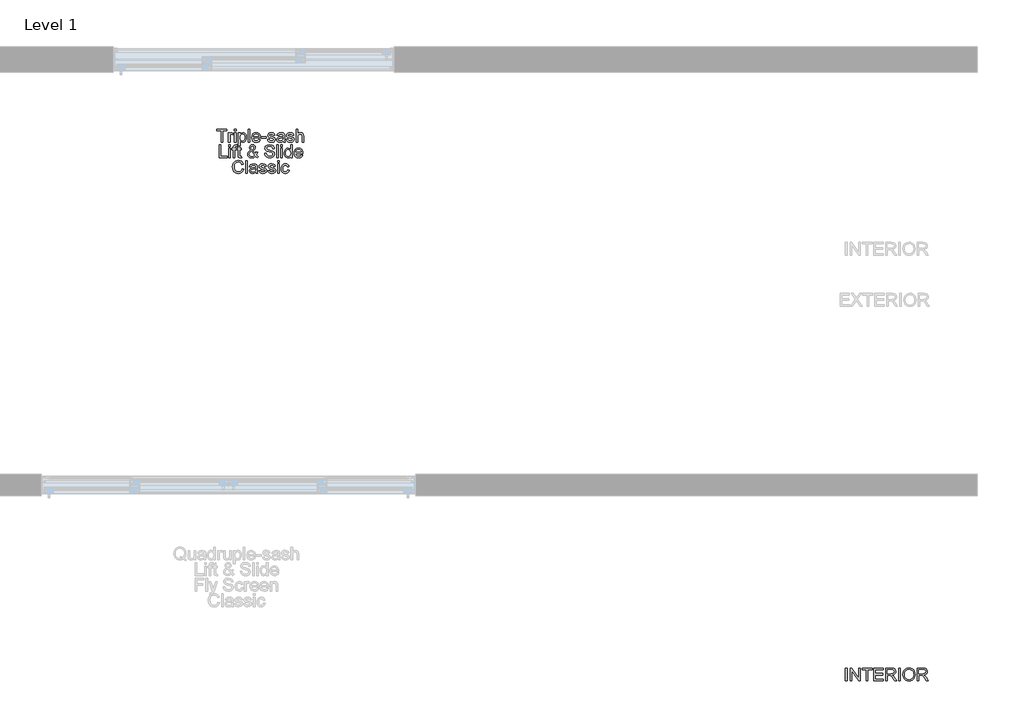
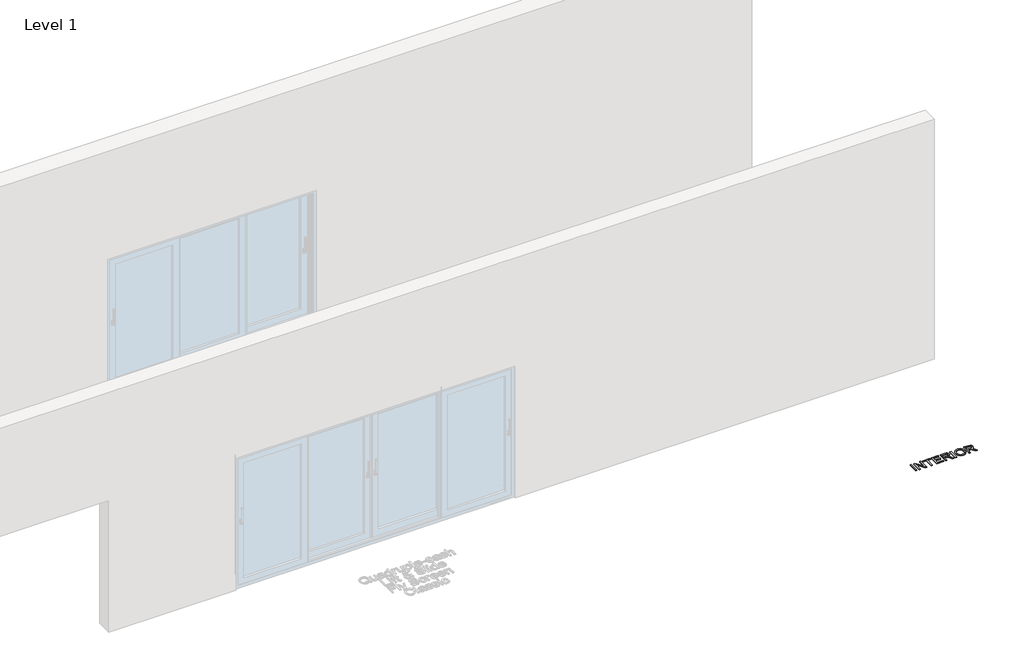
# One storey, part 12 of 13: 2 proxies.
"""IFC4 building model written with IfcOpenShell, lengths in millimetres."""

from ifc_helpers import new_model, si_unit, origin, origin_with_axes, place, context, project, spatial, polyline, outline, extrude, element, save

model = new_model("IFC4")

# Units and contexts
model_context = context("Model", 3, world=origin())
ifc_project = project(units=[si_unit("LENGTHUNIT", "METRE", prefix="MILLI")], contexts=[model_context])

# Site, building, storey
site = spatial("IfcSite", under=ifc_project)
building = spatial("IfcBuilding", under=site)
storey = spatial("IfcBuildingStorey", under=building, Name="Level 1", Elevation=0.0)

# Proxies
placement = place(None, origin())
element("IfcBuildingElementProxy", 1, Name="150mm Arial", ObjectType="150mm Arial", at=placement, inside=storey, context=model_context, shape_type="SweptSolid", body=[
    extrude(outline(polyline([(20844.4318001, -991.3626427), (20844.4318001, -859.5137356), (20794.98846, -859.5137356), (20794.98846, -840.6781775), (20912.7106984, -840.6781775), (20912.7106984, -859.5137356), (20863.2673583, -859.5137356), (20863.2673583, -991.3626427), (20844.4318001, -991.3626427)])), origin_with_axes(), (0.0, 0.0, 1.0), 10.0),
    extrude(outline(polyline([(20931.5462566, -991.3626427), (20931.5462566, -880.7037385), (20948.02737, -880.7037385), (20948.02737, -897.0744873), (20959.7260174, -881.9913255), (20971.4982413, -878.3492938), (20990.4073758, -884.1618293), (20984.1165937, -901.0476129), (20970.8728419, -897.1848519), (20960.2226581, -900.9004601), (20953.4352353, -911.2011559), (20950.3818147, -933.2004992), (20950.3818147, -991.3626427), (20931.5462566, -991.3626427)])), origin_with_axes(), (0.0, 0.0, 1.0), 10.0),
    extrude(outline(polyline([(21002.1795997, -859.5137356), (21002.1795997, -840.6781775), (21021.0151578, -840.6781775), (21021.0151578, -859.5137356), (21002.1795997, -859.5137356)])), origin_with_axes(), (0.0, 0.0, 1.0), 10.0),
    extrude(outline(polyline([(21002.1795997, -991.3626427), (21002.1795997, -880.7037385), (21021.0151578, -880.7037385), (21021.0151578, -991.3626427), (21002.1795997, -991.3626427)])), origin_with_axes(), (0.0, 0.0, 1.0), 10.0),
    extrude(outline(polyline([(21049.268495, -1033.7426485), (21049.268495, -880.7037385), (21068.1040532, -880.7037385), (21068.1040532, -899.1714147), (21081.1270758, -883.554824), (21098.7118352, -878.3492938), (21111.4497493, -880.1703096), (21122.5873767, -885.6333573), (21131.6556679, -894.4073429), (21138.1855733, -906.1611726), (21143.4462858, -935.187062), (21141.9609623, -951.2956949), (21137.5049916, -965.7028735), (21130.2209281, -977.6774325), (21120.251326, -986.4882062), (21108.6400505, -991.9098671), (21096.4309668, -993.7170875), (21080.0418239, -988.8794392), (21068.1040532, -976.6473629), (21068.1040532, -1033.7426485), (21049.268495, -1033.7426485)]), holes=[polyline([(21068.1040532, -936.9161074), (21070.1411997, -953.801891), (21076.2526394, -965.610903), (21085.2703468, -972.5638727), (21096.0262966, -974.8815293), (21106.9569904, -972.4810993), (21116.2046241, -965.2798092), (21122.5092018, -953.0385358), (21124.6107277, -935.5181558), (21122.5597855, -918.7243427), (21116.4069592, -906.7497838), (21107.4030473, -899.5760849), (21096.7988488, -897.1848519), (21086.1532636, -899.7278362), (21076.8044624, -907.3567891), (21070.2791555, -919.8325872), (21068.1040532, -936.9161074)])]), origin_with_axes(), (0.0, 0.0, 1.0), 10.0),
    extrude(outline(polyline([(21164.6362887, -991.3626427), (21164.6362887, -840.6781775), (21183.4718469, -840.6781775), (21183.4718469, -991.3626427), (21164.6362887, -991.3626427)])), origin_with_axes(), (0.0, 0.0, 1.0), 10.0),
    extrude(outline(polyline([(21289.2011323, -958.4004159), (21307.6688085, -960.7548607), (21301.0147429, -974.6699972), (21290.3967488, -985.0718606), (21276.0539495, -991.5557807), (21258.2254683, -993.7170875), (21236.1249574, -989.9876837), (21219.1196122, -978.7994725), (21208.2762904, -960.8790209), (21204.6618498, -936.9528956), (21208.3130786, -912.2220285), (21219.266765, -893.7267612), (21236.042184, -882.1936606), (21257.1586105, -878.3492938), (21277.617448, -882.1844636), (21293.9652041, -893.689973), (21304.6843658, -912.1484521), (21308.2574197, -936.842531), (21308.1470551, -941.9193025), (21223.497408, -941.9193025), (21226.7577621, -956.01838), (21234.3315327, -966.3834552), (21245.2622265, -972.7570108), (21258.5933503, -974.8815293), (21277.0610265, -970.9451919), (21289.2011323, -958.4004159)]), holes=[polyline([(21223.497408, -923.0837444), (21289.4218615, -923.0837444), (21286.8742787, -913.1325364), (21281.8802806, -906.0140198), (21270.899003, -899.3921439), (21257.0850341, -897.1848519), (21244.3885068, -898.946087), (21233.8900743, -904.2297921), (21226.5922152, -912.4657503), (21223.497408, -923.0837444)])]), origin_with_axes(), (0.0, 0.0, 1.0), 10.0),
    extrude(outline(polyline([(21317.6751987, -946.6281921), (21317.6751987, -927.7926339), (21376.536318, -927.7926339), (21376.536318, -946.6281921), (21317.6751987, -946.6281921)])), origin_with_axes(), (0.0, 0.0, 1.0), 10.0),
    extrude(outline(polyline([(21390.6629866, -958.4004159), (21409.4985447, -956.0459711), (21412.4691918, -964.1025868), (21418.217348, -970.025487), (21438.1933403, -974.8815293), (21457.3967805, -970.4301572), (21463.6507744, -959.9823085), (21462.0780789, -955.1814485), (21457.3599923, -951.5210226), (21437.9726112, -946.1499455), (21409.6089093, -936.9345015), (21397.2296802, -926.1739531), (21393.0174313, -910.9804267), (21396.4019457, -896.9457286), (21405.6357838, -886.2219685), (21417.6103427, -880.6485562), (21433.8155446, -878.3492938), (21456.7345929, -882.0465078), (21471.3027199, -892.0528981), (21477.777443, -908.9570758), (21458.9418849, -911.3115205), (21451.8601565, -900.9188542), (21435.2870726, -897.1848519), (21417.2608548, -900.7533073), (21411.8529895, -909.0674404), (21414.0970697, -914.5488821), (21421.1236158, -918.7059486), (21437.3472118, -922.7158624), (21464.9935437, -931.5818185), (21477.8326253, -941.6249969), (21482.4863326, -957.9957457), (21477.0232849, -976.0219635), (21461.2595414, -989.1001684), (21437.935823, -993.7170875), (21418.943915, -991.4914014), (21405.0839608, -984.8143432), (21395.8317286, -973.7594892), (21390.6629866, -958.4004159)])), origin_with_axes(), (0.0, 0.0, 1.0), 10.0),
    extrude(outline(polyline([(21574.3096786, -977.2359741), (21556.0443375, -990.0014793), (21535.8660101, -993.7170875), (21520.1252592, -991.4822043), (21508.5139837, -984.777555), (21501.3540804, -974.5964208), (21498.967446, -961.9320831), (21502.5726895, -947.0328623), (21512.0456509, -936.2171316), (21525.2342204, -930.0367141), (21541.5313928, -927.2040227), (21574.199314, -920.7292996), (21574.3096786, -916.5354449), (21573.0128945, -908.1293413), (21569.1225424, -902.6295054), (21560.4221332, -898.5460153), (21548.3004215, -897.1848519), (21529.2441342, -900.8084896), (21520.1574489, -913.6659653), (21501.3218907, -911.3115205), (21509.4704769, -892.9174208), (21525.8780139, -882.1384783), (21550.7284427, -878.3492938), (21573.5555205, -881.6970199), (21586.4497844, -890.1031235), (21592.2255317, -902.8870228), (21593.1452367, -919.3681362), (21593.1452367, -942.8022193), (21594.1017299, -975.5253228), (21597.8541263, -991.3626427), (21579.0185681, -991.3626427), (21574.3096786, -977.2359741)]), holes=[polyline([(21574.3096786, -939.5648578), (21543.9226258, -945.3406051), (21527.7174239, -948.3940256), (21520.3781781, -953.3604326), (21517.8030041, -960.6077079), (21523.4132045, -970.7980392), (21539.8759238, -974.8815293), (21558.9322112, -970.3749749), (21571.2194698, -959.4672737), (21574.199314, -944.8991467), (21574.3096786, -939.5648578)])]), origin_with_axes(), (0.0, 0.0, 1.0), 10.0),
    extrude(outline(polyline([(21611.9807949, -958.4004159), (21630.816353, -956.0459711), (21633.7870001, -964.1025868), (21639.5351563, -970.025487), (21659.5111486, -974.8815293), (21678.7145888, -970.4301572), (21684.9685827, -959.9823085), (21683.3958872, -955.1814485), (21678.6778006, -951.5210226), (21659.2904195, -946.1499455), (21630.9267176, -936.9345015), (21618.5474885, -926.1739531), (21614.3352396, -910.9804267), (21617.719754, -896.9457286), (21626.9535921, -886.2219685), (21638.928151, -880.6485562), (21655.1333529, -878.3492938), (21678.0524012, -882.0465078), (21692.6205282, -892.0528981), (21699.0952513, -908.9570758), (21680.2596932, -911.3115205), (21673.1779648, -900.9188542), (21656.6048809, -897.1848519), (21638.5786631, -900.7533073), (21633.1707978, -909.0674404), (21635.414878, -914.5488821), (21642.4414241, -918.7059486), (21658.6650201, -922.7158624), (21686.311352, -931.5818185), (21699.1504336, -941.6249969), (21703.8041409, -957.9957457), (21698.3410932, -976.0219635), (21682.5773497, -989.1001684), (21659.2536313, -993.7170875), (21640.2617232, -991.4914014), (21626.4017691, -984.8143432), (21617.1495369, -973.7594892), (21611.9807949, -958.4004159)])), origin_with_axes(), (0.0, 0.0, 1.0), 10.0),
    extrude(outline(polyline([(21724.9941438, -991.3626427), (21724.9941438, -840.6781775), (21743.8297019, -840.6781775), (21743.8297019, -896.0812059), (21758.5173906, -882.7822718), (21776.6079877, -878.3492938), (21797.7612024, -883.186942), (21810.6002841, -896.5594525), (21814.463045, -921.3179108), (21814.463045, -991.3626427), (21795.6274869, -991.3626427), (21795.6274869, -923.2676854), (21794.1283677, -911.4770674), (21789.6310103, -903.4020576), (21782.383735, -898.7391533), (21772.6348622, -897.1848519), (21757.2022125, -901.3787067), (21746.9015166, -912.7462603), (21743.8297019, -932.5750999), (21743.8297019, -991.3626427), (21724.9941438, -991.3626427)])), origin_with_axes(), (0.0, 0.0, 1.0), 10.0),
    extrude(outline(polyline([(20823.2417972, -1174.3248694), (20823.2417972, -1023.6404042), (20842.0773554, -1023.6404042), (20842.0773554, -1155.4893113), (20917.419588, -1155.4893113), (20917.419588, -1174.3248694), (20823.2417972, -1174.3248694)])), origin_with_axes(), (0.0, 0.0, 1.0), 10.0),
    extrude(outline(polyline([(20936.2551461, -1042.4759624), (20936.2551461, -1023.6404042), (20955.0907043, -1023.6404042), (20955.0907043, -1042.4759624), (20936.2551461, -1042.4759624)])), origin_with_axes(), (0.0, 0.0, 1.0), 10.0),
    extrude(outline(polyline([(20936.2551461, -1174.3248694), (20936.2551461, -1063.6659653), (20955.0907043, -1063.6659653), (20955.0907043, -1174.3248694), (20936.2551461, -1174.3248694)])), origin_with_axes(), (0.0, 0.0, 1.0), 10.0),
    extrude(outline(polyline([(20988.0529311, -1174.3248694), (20988.0529311, -1082.5015235), (20971.5718177, -1082.5015235), (20971.5718177, -1063.6659653), (20988.0529311, -1063.6659653), (20988.0529311, -1052.5191408), (20990.0394938, -1036.8105797), (20999.6780021, -1025.5901788), (21018.660713, -1021.2859595), (21035.8408022, -1023.3460986), (21033.0816873, -1041.0044344), (21022.2291684, -1040.1215176), (21010.3649741, -1043.2485146), (21006.8884892, -1054.9103738), (21006.8884892, -1063.6659653), (21028.0784921, -1063.6659653), (21028.0784921, -1082.5015235), (21006.8884892, -1082.5015235), (21006.8884892, -1174.3248694), (20988.0529311, -1174.3248694)])), origin_with_axes(), (0.0, 0.0, 1.0), 10.0),
    extrude(outline(polyline([(21084.5851666, -1158.6163083), (21086.9396114, -1174.8766924), (21072.8497309, -1176.6793142), (21057.0675933, -1173.5523173), (21049.1949186, -1165.3485488), (21046.9140503, -1143.9746048), (21046.9140503, -1082.5015235), (21032.7873817, -1082.5015235), (21032.7873817, -1063.6659653), (21046.9140503, -1063.6659653), (21046.9140503, -1036.7737915), (21065.7496084, -1025.7005434), (21065.7496084, -1063.6659653), (21084.5851666, -1063.6659653), (21084.5851666, -1082.5015235), (21065.7496084, -1082.5015235), (21065.7496084, -1143.4227819), (21066.7428898, -1153.1348665), (21069.9618573, -1156.5745632), (21076.3813981, -1157.8437561), (21084.5851666, -1158.6163083)])), origin_with_axes(), (0.0, 0.0, 1.0), 10.0),
    extrude(outline(polyline([(21248.6973246, -1155.7100405), (21228.7213323, -1171.4369958), (21205.3608256, -1176.6793142), (21184.5754929, -1172.7981592), (21168.5726261, -1161.154694), (21160.3228723, -1147.7545923), (21157.5729544, -1132.8645686), (21159.7848449, -1119.666802), (21166.4205164, -1107.8118047), (21177.4523777, -1097.3087738), (21192.8528378, -1088.1669062), (21179.7010564, -1069.1106188), (21176.4085126, -1054.9839502), (21179.0020806, -1042.2644302), (21186.7827848, -1031.3291379), (21198.4906293, -1023.7967541), (21212.8656183, -1021.2859595), (21226.5416315, -1023.6863895), (21237.4769238, -1030.8876795), (21244.6506227, -1041.4550898), (21247.0418557, -1053.9538806), (21245.2714236, -1064.4477145), (21239.9601272, -1074.1506022), (21218.714942, -1091.1835385), (21245.9749979, -1125.1390467), (21254.10519, -1104.2801376), (21272.9407481, -1108.3636277), (21259.6234199, -1139.3760799), (21282.3585272, -1162.1847636), (21268.2318586, -1176.6793142), (21248.6973246, -1155.7100405)]), holes=[polyline([(21209.1867984, -1079.3009501), (21224.6746303, -1067.6206967), (21228.2062975, -1056.5290546), (21223.5525903, -1044.7016484), (21211.9091251, -1040.1215176), (21200.0081426, -1044.6648602), (21195.2440707, -1055.7565024), (21196.8627515, -1062.6542898), (21201.755582, -1070.3246294), (21209.1867984, -1079.3009501)]), polyline([(21236.0789722, -1142.1351949), (21202.4545578, -1100.1598592), (21181.7611956, -1115.9419968), (21176.4085126, -1130.362971), (21178.2387255, -1139.2473212), (21183.7293643, -1148.4627652), (21192.5769263, -1155.4985083), (21204.4779088, -1157.8437561), (21221.7867567, -1153.4659603), (21236.0789722, -1142.1351949)])]), origin_with_axes(), (0.0, 0.0, 1.0), 10.0),
    extrude(outline(polyline([(21355.346315, -1122.5270845), (21374.1818732, -1122.5270845), (21380.2519261, -1141.3810368), (21395.0775705, -1153.3004134), (21417.665525, -1157.8437561), (21437.3472118, -1154.4040594), (21450.0575347, -1144.9494921), (21454.2329953, -1132.3127456), (21451.1059984, -1120.5589159), (21438.3037049, -1112.0056595), (21410.8781022, -1104.8135665), (21381.3555721, -1095.5245461), (21365.3343112, -1081.5082421), (21360.0552046, -1062.7830485), (21361.6876809, -1051.7511872), (21366.58511, -1041.4642869), (21374.6187331, -1032.7454836), (21385.6597914, -1026.4179133), (21413.5820349, -1021.2859595), (21443.3804765, -1026.6570366), (21454.8032124, -1033.2881095), (21463.2461042, -1042.4391742), (21468.5895902, -1053.5400134), (21470.7141087, -1066.0204101), (21451.8785506, -1066.0204101), (21448.4204598, -1054.7816151), (21441.2099727, -1046.6698171), (21429.9435866, -1041.7585925), (21414.3177989, -1040.1215176), (21398.3241291, -1041.7401984), (21387.3520486, -1046.5962407), (21381.0060842, -1053.7423485), (21378.8907627, -1062.2312255), (21380.3898819, -1069.4693038), (21384.8872392, -1075.2910363), (21415.642174, -1085.8124614), (21448.9722828, -1095.2670287), (21459.7098385, -1102.1004367), (21467.2008357, -1110.5341315), (21471.601624, -1120.4761424), (21473.0685535, -1131.834499), (21471.3808948, -1143.4457745), (21466.3179189, -1154.3672712), (21458.0865592, -1163.7666562), (21446.8937495, -1170.8115964), (21433.433867, -1175.2123848), (21418.401289, -1176.6793142), (21399.9474084, -1175.0974216), (21384.7584805, -1170.3517439), (21372.6597614, -1162.4238869), (21363.4765071, -1151.2954566), (21357.5811982, -1137.739005), (21355.346315, -1122.5270845)])), origin_with_axes(), (0.0, 0.0, 1.0), 10.0),
    extrude(outline(polyline([(21498.967446, -1174.3248694), (21498.967446, -1023.6404042), (21517.8030041, -1023.6404042), (21517.8030041, -1174.3248694), (21498.967446, -1174.3248694)])), origin_with_axes(), (0.0, 0.0, 1.0), 10.0),
    extrude(outline(polyline([(21546.0563413, -1042.4759624), (21546.0563413, -1023.6404042), (21564.8918995, -1023.6404042), (21564.8918995, -1042.4759624), (21546.0563413, -1042.4759624)])), origin_with_axes(), (0.0, 0.0, 1.0), 10.0),
    extrude(outline(polyline([(21546.0563413, -1174.3248694), (21546.0563413, -1063.6659653), (21564.8918995, -1063.6659653), (21564.8918995, -1174.3248694), (21546.0563413, -1174.3248694)])), origin_with_axes(), (0.0, 0.0, 1.0), 10.0),
    extrude(outline(polyline([(21661.424135, -1174.3248694), (21661.424135, -1156.5561691), (21648.9621324, -1171.6485279), (21631.736058, -1176.6793142), (21619.559164, -1174.8582983), (21608.4123395, -1169.3952507), (21598.9761663, -1160.6718489), (21591.9312261, -1149.0697705), (21587.5442333, -1135.058065), (21586.0819024, -1119.105782), (21591.4713736, -1089.1233994), (21598.2036142, -1077.2316139), (21607.6213932, -1068.4852194), (21619.0119395, -1063.1049453), (21631.6624816, -1061.3115205), (21649.0265118, -1066.4434744), (21661.424135, -1079.7791967), (21661.424135, -1023.6404042), (21680.2596932, -1023.6404042), (21680.2596932, -1174.3248694), (21661.424135, -1174.3248694)]), holes=[polyline([(21604.9174606, -1119.0322056), (21607.0419791, -1136.0697405), (21613.4155347, -1148.1868537), (21622.6769639, -1155.4295305), (21633.4651034, -1157.8437561), (21644.2486444, -1155.5398951), (21653.2755488, -1148.6283121), (21659.3869885, -1136.9802484), (21661.424135, -1120.4669454), (21659.3502003, -1102.4131364), (21653.128396, -1089.8959516), (21643.8715653, -1082.5842969), (21632.6925512, -1080.1470787), (21621.7940471, -1082.4877279), (21612.8637117, -1089.5096755), (21606.9040233, -1101.5716064), (21604.9174606, -1119.0322056)])]), origin_with_axes(), (0.0, 0.0, 1.0), 10.0),
    extrude(outline(polyline([(21785.9889786, -1141.3626427), (21804.4566547, -1143.7170875), (21797.8025892, -1157.6322239), (21787.1845951, -1168.0340873), (21772.8417958, -1174.5180075), (21755.0133146, -1176.6793142), (21732.9128037, -1172.9499105), (21715.9074585, -1161.7616993), (21705.0641367, -1143.8412476), (21701.4496961, -1119.9151224), (21705.1009249, -1095.1842552), (21716.0546113, -1076.6889879), (21732.8300303, -1065.1558874), (21753.9464568, -1061.3115205), (21774.4052943, -1065.1466903), (21790.7530504, -1076.6521997), (21801.4722121, -1095.1106788), (21805.0452659, -1119.8047578), (21804.9349013, -1124.8815293), (21720.2852543, -1124.8815293), (21723.5456084, -1138.9806068), (21731.119379, -1149.345682), (21742.0500728, -1155.7192375), (21755.3811966, -1157.8437561), (21773.8488727, -1153.9074187), (21785.9889786, -1141.3626427)]), holes=[polyline([(21720.2852543, -1106.0459711), (21786.2097078, -1106.0459711), (21783.662125, -1096.0947632), (21778.6681269, -1088.9762466), (21767.6868493, -1082.3543707), (21753.8728804, -1080.1470787), (21741.1763531, -1081.9083137), (21730.6779206, -1087.1920189), (21723.3800615, -1095.4279771), (21720.2852543, -1106.0459711)])]), origin_with_axes(), (0.0, 0.0, 1.0), 10.0),
    extrude(outline(polyline([(21091.6485009, -1303.7234777), (21110.484059, -1308.5795201), (21101.7928469, -1330.5282796), (21088.1536219, -1346.5633361), (21070.2377688, -1356.3719898), (21048.7166721, -1359.641541), (21026.8690801, -1357.1675346), (21009.5188455, -1349.7455153), (20996.2199113, -1337.6330006), (20986.5262208, -1321.0875079), (20980.6079192, -1301.6357474), (20978.635152, -1280.8044294), (20980.8654366, -1258.8326773), (20987.5562904, -1239.8591634), (20998.3582254, -1224.4862945), (21012.9217539, -1213.3164774), (21030.1938136, -1206.515259), (21049.1213422, -1204.2481862), (21069.7733178, -1207.1820451), (21086.8476409, -1215.9836219), (21099.8108827, -1230.1102905), (21108.1296143, -1249.019425), (21089.2940561, -1253.5075854), (21082.7641507, -1239.7717914), (21073.8430123, -1230.3494138), (21062.4202764, -1224.9001617), (21048.3855783, -1223.0837444), (21032.2079675, -1225.0978983), (21018.9182304, -1231.1403601), (21008.8336653, -1240.5765332), (21002.2715702, -1252.7718214), (20997.4707101, -1280.7676412), (20998.8916543, -1298.1684596), (21003.154487, -1313.2148332), (21010.4201564, -1325.3319464), (21020.8496109, -1333.9449836), (21033.3530002, -1339.090733), (21046.8404739, -1340.8059828), (21062.5628306, -1338.4699322), (21075.6640282, -1331.4617802), (21085.5554553, -1319.8551032), (21091.6485009, -1303.7234777)])), origin_with_axes(), (0.0, 0.0, 1.0), 10.0),
    extrude(outline(polyline([(21134.0285067, -1357.2870962), (21134.0285067, -1206.602631), (21152.8640649, -1206.602631), (21152.8640649, -1357.2870962), (21134.0285067, -1357.2870962)])), origin_with_axes(), (0.0, 0.0, 1.0), 10.0),
    extrude(outline(polyline([(21251.7507452, -1343.1604276), (21233.4854041, -1355.9259328), (21213.3070767, -1359.641541), (21197.5663258, -1357.4066579), (21185.9550504, -1350.7020085), (21178.795147, -1340.5208743), (21176.4085126, -1327.8565366), (21180.0137561, -1312.9573158), (21189.4867175, -1302.1415851), (21202.675287, -1295.9611676), (21218.9724594, -1293.1284763), (21251.6403806, -1286.6537531), (21251.7507452, -1282.4598984), (21250.4539612, -1274.0537948), (21246.5636091, -1268.553959), (21237.8631999, -1264.4704688), (21225.7414881, -1263.1093055), (21206.6852008, -1266.7329431), (21197.5985155, -1279.5904188), (21178.7629574, -1277.2359741), (21186.9115435, -1258.8418743), (21203.3190805, -1248.0629318), (21228.1695093, -1244.2737473), (21250.9965871, -1247.6214735), (21263.890851, -1256.027577), (21269.6665984, -1268.8114764), (21270.5863033, -1285.2925898), (21270.5863033, -1308.7266729), (21271.5427965, -1341.4497763), (21275.2951929, -1357.2870962), (21256.4596347, -1357.2870962), (21251.7507452, -1343.1604276)]), holes=[polyline([(21251.7507452, -1305.4893113), (21221.3636924, -1311.2650586), (21205.1584905, -1314.3184792), (21197.8192447, -1319.2848861), (21195.2440707, -1326.5321614), (21200.8542712, -1336.7224927), (21217.3169904, -1340.8059828), (21236.3732778, -1336.2994284), (21248.6605364, -1325.3917272), (21251.6403806, -1310.8236002), (21251.7507452, -1305.4893113)])]), origin_with_axes(), (0.0, 0.0, 1.0), 10.0),
    extrude(outline(polyline([(21289.4218615, -1324.3248694), (21308.2574197, -1321.9704247), (21311.2280668, -1330.0270404), (21316.9762229, -1335.9499405), (21336.9522153, -1340.8059828), (21356.1556554, -1336.3546107), (21362.4096493, -1325.906762), (21360.8369538, -1321.105902), (21356.1188672, -1317.4454761), (21336.7314861, -1312.074399), (21308.3677843, -1302.858955), (21295.9885551, -1292.0984067), (21291.7763063, -1276.9048803), (21295.1608206, -1262.8701822), (21304.3946587, -1252.146422), (21316.3692176, -1246.5730098), (21332.5744195, -1244.2737473), (21355.4934678, -1247.9709614), (21370.0615948, -1257.9773516), (21376.536318, -1274.8815293), (21357.7007598, -1277.2359741), (21350.6190314, -1266.8433077), (21334.0459475, -1263.1093055), (21316.0197298, -1266.6777608), (21310.6118644, -1274.9918939), (21312.8559446, -1280.4733356), (21319.8824907, -1284.6304022), (21336.1060867, -1288.6403159), (21363.7524186, -1297.506272), (21376.5915003, -1307.5494505), (21381.2452075, -1323.9201993), (21375.7821599, -1341.946417), (21360.0184164, -1355.0246219), (21336.6946979, -1359.641541), (21317.7027899, -1357.4158549), (21303.8428357, -1350.7387967), (21294.5906035, -1339.6839427), (21289.4218615, -1324.3248694)])), origin_with_axes(), (0.0, 0.0, 1.0), 10.0),
    extrude(outline(polyline([(21395.3718761, -1324.3248694), (21414.2074343, -1321.9704247), (21417.1780814, -1330.0270404), (21422.9262375, -1335.9499405), (21442.9022299, -1340.8059828), (21462.10567, -1336.3546107), (21468.359664, -1325.906762), (21466.7869684, -1321.105902), (21462.0688818, -1317.4454761), (21442.6815007, -1312.074399), (21414.3177989, -1302.858955), (21401.9385697, -1292.0984067), (21397.7263209, -1276.9048803), (21401.1108352, -1262.8701822), (21410.3446733, -1252.146422), (21422.3192323, -1246.5730098), (21438.5244341, -1244.2737473), (21461.4434824, -1247.9709614), (21476.0116095, -1257.9773516), (21482.4863326, -1274.8815293), (21463.6507744, -1277.2359741), (21456.569046, -1266.8433077), (21439.9959621, -1263.1093055), (21421.9697444, -1266.6777608), (21416.561879, -1274.9918939), (21418.8059592, -1280.4733356), (21425.8325053, -1284.6304022), (21442.0561013, -1288.6403159), (21469.7024332, -1297.506272), (21482.5415149, -1307.5494505), (21487.1952221, -1323.9201993), (21481.7321745, -1341.946417), (21465.968431, -1355.0246219), (21442.6447125, -1359.641541), (21423.6528045, -1357.4158549), (21409.7928503, -1350.7387967), (21400.5406181, -1339.6839427), (21395.3718761, -1324.3248694)])), origin_with_axes(), (0.0, 0.0, 1.0), 10.0),
    extrude(outline(polyline([(21508.385225, -1225.4381891), (21508.385225, -1206.602631), (21527.2207832, -1206.602631), (21527.2207832, -1225.4381891), (21508.385225, -1225.4381891)])), origin_with_axes(), (0.0, 0.0, 1.0), 10.0),
    extrude(outline(polyline([(21508.385225, -1357.2870962), (21508.385225, -1246.6281921), (21527.2207832, -1246.6281921), (21527.2207832, -1357.2870962), (21508.385225, -1357.2870962)])), origin_with_axes(), (0.0, 0.0, 1.0), 10.0),
    extrude(outline(polyline([(21626.1074635, -1317.2615351), (21644.9430216, -1319.6159799), (21639.6915062, -1336.3684063), (21629.8230716, -1349.0281454), (21616.2666201, -1356.9881921), (21599.9510536, -1359.641541), (21579.9152805, -1355.9397284), (21564.248106, -1344.8342907), (21554.1359497, -1326.8126714), (21550.7652309, -1302.3623143), (21552.2045692, -1285.6006909), (21556.5225841, -1271.0739506), (21563.7882535, -1259.3431135), (21574.0705553, -1250.9691996), (21586.3716095, -1245.9476104), (21599.6935362, -1244.2737473), (21615.609031, -1246.5730098), (21628.3331496, -1253.4707972), (21637.4612216, -1264.5992275), (21642.5885769, -1279.5904188), (21623.7530187, -1281.9448636), (21615.0158213, -1267.8365891), (21599.840689, -1263.1093055), (21587.6683935, -1265.4361591), (21578.0068926, -1272.4167199), (21571.7023149, -1284.4280671), (21569.600789, -1301.8472795), (21571.6563297, -1319.5010168), (21577.8229516, -1331.5537507), (21587.3097086, -1338.4929248), (21599.3256542, -1340.8059828), (21609.0791256, -1339.362046), (21617.0759605, -1335.0302355), (21622.8930946, -1327.7001868), (21626.1074635, -1317.2615351)])), origin_with_axes(), (0.0, 0.0, 1.0), 10.0),
])
element("IfcBuildingElementProxy", 2, Name="150mm Arial", ObjectType="150mm Arial", at=placement, inside=storey, context=model_context, shape_type="SweptSolid", body=[
    extrude(outline(polyline([(28177.951692, -7318.7131538), (28177.951692, -7168.0286886), (28196.7872501, -7168.0286886), (28196.7872501, -7318.7131538), (28177.951692, -7318.7131538)])), origin_with_axes(), (0.0, 0.0, 1.0), 10.0),
    extrude(outline(polyline([(28234.4583664, -7318.7131538), (28234.4583664, -7168.0286886), (28254.6182998, -7168.0286886), (28333.3450467, -7287.4063961), (28333.3450467, -7168.0286886), (28352.1806049, -7168.0286886), (28352.1806049, -7318.7131538), (28332.0206715, -7318.7131538), (28253.2939246, -7199.2986582), (28253.2939246, -7318.7131538), (28234.4583664, -7318.7131538)])), origin_with_axes(), (0.0, 0.0, 1.0), 10.0),
    extrude(outline(polyline([(28422.8139479, -7318.7131538), (28422.8139479, -7186.8642468), (28373.3706078, -7186.8642468), (28373.3706078, -7168.0286886), (28491.0928463, -7168.0286886), (28491.0928463, -7186.8642468), (28441.6495061, -7186.8642468), (28441.6495061, -7318.7131538), (28422.8139479, -7318.7131538)])), origin_with_axes(), (0.0, 0.0, 1.0), 10.0),
    extrude(outline(polyline([(28512.2828492, -7318.7131538), (28512.2828492, -7168.0286886), (28620.5873086, -7168.0286886), (28620.5873086, -7186.8642468), (28531.1184073, -7186.8642468), (28531.1184073, -7231.5986974), (28615.878419, -7231.5986974), (28615.878419, -7250.4342555), (28531.1184073, -7250.4342555), (28531.1184073, -7299.8775957), (28622.9417533, -7299.8775957), (28622.9417533, -7318.7131538), (28512.2828492, -7318.7131538)])), origin_with_axes(), (0.0, 0.0, 1.0), 10.0),
    extrude(outline(polyline([(28651.1950906, -7318.7131538), (28651.1950906, -7168.0286886), (28716.1262627, -7168.0286886), (28746.2741922, -7172.0937847), (28755.5540155, -7177.7223792), (28762.7553056, -7186.4779707), (28767.3768232, -7197.3350881), (28768.917329, -7209.2682603), (28766.3651477, -7224.1122988), (28758.7086036, -7236.4179515), (28745.7177707, -7245.4402575), (28727.1627226, -7250.4342555), (28737.8680886, -7258.4908712), (28753.1351914, -7277.8782524), (28778.2615317, -7318.7131538), (28756.372553, -7318.7131538), (28736.7644426, -7287.4799725), (28722.6009858, -7266.8050043), (28712.6497778, -7257.0377374), (28703.6918513, -7253.4508879), (28692.765756, -7252.7887003), (28670.0306487, -7252.7887003), (28670.0306487, -7318.7131538), (28651.1950906, -7318.7131538)]), holes=[polyline([(28670.0306487, -7233.9531422), (28712.1899254, -7233.9531422), (28733.692628, -7231.2859977), (28745.9063102, -7222.7511354), (28750.0817709, -7209.9672361), (28748.0906096, -7200.7793832), (28742.1171257, -7193.3757581), (28731.8394224, -7188.4921246), (28716.9356031, -7186.8642468), (28670.0306487, -7186.8642468), (28670.0306487, -7233.9531422)])]), origin_with_axes(), (0.0, 0.0, 1.0), 10.0),
    extrude(outline(polyline([(28804.2340005, -7318.7131538), (28804.2340005, -7168.0286886), (28823.0695587, -7168.0286886), (28823.0695587, -7318.7131538), (28804.2340005, -7318.7131538)])), origin_with_axes(), (0.0, 0.0, 1.0), 10.0),
    extrude(outline(polyline([(28853.6773407, -7245.357484), (28858.6989299, -7212.0365723), (28864.9759165, -7198.4180407), (28873.7636976, -7186.8274586), (28896.7655194, -7170.9625475), (28925.5982708, -7165.6742438), (28945.3627309, -7168.1574473), (28963.0854461, -7175.6070577), (28977.8007259, -7187.4988432), (28988.5428801, -7203.308572), (28995.1095737, -7222.2728888), (28997.2984716, -7243.6284386), (28994.9946106, -7265.269097), (28988.0830276, -7284.5001283), (28976.9454002, -7300.3374482), (28961.963406, -7311.7969723), (28944.3924422, -7318.749942), (28925.4879062, -7321.0675986), (28905.4199433, -7318.5062202), (28887.5960607, -7310.822085), (28872.917569, -7298.7095704), (28862.2857794, -7282.8630534), (28855.8294504, -7264.629902), (28853.6773407, -7245.357484)]), holes=[polyline([(28872.5128989, -7245.541425), (28876.2790908, -7269.1134638), (28887.5776666, -7287.0753023), (28904.5600192, -7298.4428559), (28925.3775416, -7302.2320405), (28946.4985666, -7298.4060677), (28963.5085104, -7286.9281495), (28974.7243127, -7268.4144881), (28978.4629135, -7243.4812858), (28976.8626268, -7226.8070344), (28972.0617667, -7212.3952572), (28964.1844935, -7200.6092378), (28953.3549673, -7191.8122596), (28940.2905579, -7186.3354164), (28925.7086354, -7184.509802), (28905.4475345, -7188.0276736), (28888.22146, -7198.5812883), (28876.4400392, -7217.3570656), (28872.5128989, -7245.541425)])]), origin_with_axes(), (0.0, 0.0, 1.0), 10.0),
    extrude(outline(polyline([(29023.1973641, -7318.7131538), (29023.1973641, -7168.0286886), (29088.1285362, -7168.0286886), (29118.2764657, -7172.0937847), (29127.5562891, -7177.7223792), (29134.7575791, -7186.4779707), (29139.3790967, -7197.3350881), (29140.9196025, -7209.2682603), (29138.3674212, -7224.1122988), (29130.7108772, -7236.4179515), (29117.7200442, -7245.4402575), (29099.1649961, -7250.4342555), (29109.8703621, -7258.4908712), (29125.1374649, -7277.8782524), (29150.2638052, -7318.7131538), (29128.3748265, -7318.7131538), (29108.7667162, -7287.4799725), (29094.6032593, -7266.8050043), (29084.6520514, -7257.0377374), (29075.6941248, -7253.4508879), (29064.7680295, -7252.7887003), (29042.0329222, -7252.7887003), (29042.0329222, -7318.7131538), (29023.1973641, -7318.7131538)]), holes=[polyline([(29042.0329222, -7233.9531422), (29084.1921989, -7233.9531422), (29105.6949015, -7231.2859977), (29117.9085837, -7222.7511354), (29122.0840444, -7209.9672361), (29120.0928831, -7200.7793832), (29114.1193992, -7193.3757581), (29103.8416959, -7188.4921246), (29088.9378766, -7186.8642468), (29042.0329222, -7186.8642468), (29042.0329222, -7233.9531422)])]), origin_with_axes(), (0.0, 0.0, 1.0), 10.0),
])

save(model, "model.ifc")
